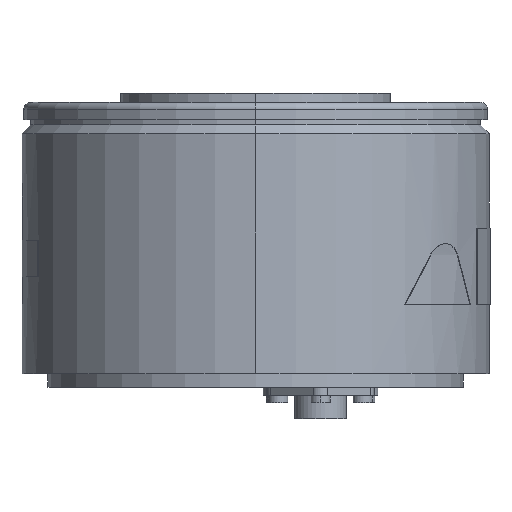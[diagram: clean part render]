
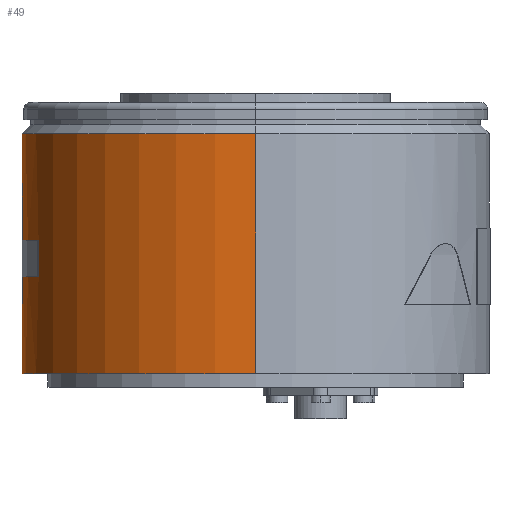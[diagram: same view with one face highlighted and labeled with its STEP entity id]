
A CAD part, left-side view. The second image highlights one B-rep face of the part: STEP entity #49.
In plain terms, the highlighted cylindrical face has radius 67.5 mm (diameter 135 mm), a partial arc.
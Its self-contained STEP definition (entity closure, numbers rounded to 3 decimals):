
#26 = ORIENTED_EDGE ( 'NONE', *, *, #27, .T. ) ;
#27 = EDGE_CURVE ( 'NONE', #54, #55, #2304, .T. ) ;
#28 = ORIENTED_EDGE ( 'NONE', *, *, #29, .T. ) ;
#29 = EDGE_CURVE ( 'NONE', #55, #30, #2299, .T. ) ;
#30 = VERTEX_POINT ( 'NONE', #2295 ) ;
#31 = ORIENTED_EDGE ( 'NONE', *, *, #32, .T. ) ;
#32 = EDGE_CURVE ( 'NONE', #30, #53, #2293, .T. ) ;
#33 = EDGE_LOOP ( 'NONE', ( #34, #35, #38, #101 ) ) ;
#34 = ORIENTED_EDGE ( 'NONE', *, *, #9161, .T. ) ;
#35 = ORIENTED_EDGE ( 'NONE', *, *, #36, .T. ) ;
#36 = EDGE_CURVE ( 'NONE', #9159, #37, #2288, .T. ) ;
#37 = VERTEX_POINT ( 'NONE', #2349 ) ;
#38 = ORIENTED_EDGE ( 'NONE', *, *, #39, .F. ) ;
#39 = EDGE_CURVE ( 'NONE', #100, #37, #2348, .T. ) ;
#49 = ADVANCED_FACE ( 'NONE', ( #2327, #2326 ), #2325, .T. ) ;
#50 = EDGE_LOOP ( 'NONE', ( #51, #26, #28, #31 ) ) ;
#51 = ORIENTED_EDGE ( 'NONE', *, *, #52, .T. ) ;
#52 = EDGE_CURVE ( 'NONE', #53, #54, #2324, .T. ) ;
#53 = VERTEX_POINT ( 'NONE', #2379 ) ;
#54 = VERTEX_POINT ( 'NONE', #2378 ) ;
#55 = VERTEX_POINT ( 'NONE', #2377 ) ;
#100 = VERTEX_POINT ( 'NONE', #2422 ) ;
#101 = ORIENTED_EDGE ( 'NONE', *, *, #102, .F. ) ;
#102 = EDGE_CURVE ( 'NONE', #9162, #100, #2421, .T. ) ;
#2288 = LINE ( 'NONE', #2294, #2351 ) ;
#2289 = DIRECTION ( 'NONE',  ( 1., 0., 0. ) ) ;
#2290 = DIRECTION ( 'NONE',  ( 0., 0., -1. ) ) ;
#2291 = CARTESIAN_POINT ( 'NONE',  ( 0., 0., 32. ) ) ;
#2292 = AXIS2_PLACEMENT_3D ( 'NONE', #2291, #2290, #2289 ) ;
#2293 = CIRCLE ( 'NONE', #2292, 67.5 ) ;
#2294 = CARTESIAN_POINT ( 'NONE',  ( 67.5, 0., -59.236 ) ) ;
#2295 = CARTESIAN_POINT ( 'NONE',  ( -25., 62.7, 32. ) ) ;
#2296 = DIRECTION ( 'NONE',  ( 0., 0., -1. ) ) ;
#2297 = VECTOR ( 'NONE', #2296, 1000. ) ;
#2298 = CARTESIAN_POINT ( 'NONE',  ( -25., 62.7, -59.236 ) ) ;
#2299 = LINE ( 'NONE', #2298, #2297 ) ;
#2300 = DIRECTION ( 'NONE',  ( -1., 0., 0. ) ) ;
#2301 = DIRECTION ( 'NONE',  ( 0., 0., 1. ) ) ;
#2302 = CARTESIAN_POINT ( 'NONE',  ( 0., 0., 42.5 ) ) ;
#2303 = AXIS2_PLACEMENT_3D ( 'NONE', #2302, #2301, #2300 ) ;
#2304 = CIRCLE ( 'NONE', #2303, 67.5 ) ;
#2319 = DIRECTION ( 'NONE',  ( -1., 0., 0. ) ) ;
#2320 = DIRECTION ( 'NONE',  ( 0., 0., -1. ) ) ;
#2321 = CARTESIAN_POINT ( 'NONE',  ( 0., 0., -59.236 ) ) ;
#2322 = AXIS2_PLACEMENT_3D ( 'NONE', #2321, #2320, #2319 ) ;
#2323 = CARTESIAN_POINT ( 'NONE',  ( 25., 62.7, -59.236 ) ) ;
#2324 = LINE ( 'NONE', #2323, #2381 ) ;
#2325 = CYLINDRICAL_SURFACE ( 'NONE', #2322, 67.5 ) ;
#2326 = FACE_OUTER_BOUND ( 'NONE', #33, .T. ) ;
#2327 = FACE_BOUND ( 'NONE', #50, .T. ) ;
#2344 = DIRECTION ( 'NONE',  ( -1., 0., 0. ) ) ;
#2345 = DIRECTION ( 'NONE',  ( 0., 0., -1. ) ) ;
#2346 = CARTESIAN_POINT ( 'NONE',  ( 0., 0., 4. ) ) ;
#2347 = AXIS2_PLACEMENT_3D ( 'NONE', #2346, #2345, #2344 ) ;
#2348 = CIRCLE ( 'NONE', #2347, 67.5 ) ;
#2349 = CARTESIAN_POINT ( 'NONE',  ( 67.5, 0., 4. ) ) ;
#2350 = DIRECTION ( 'NONE',  ( 0., 0., -1. ) ) ;
#2351 = VECTOR ( 'NONE', #2350, 1000. ) ;
#2377 = CARTESIAN_POINT ( 'NONE',  ( -25., 62.7, 42.5 ) ) ;
#2378 = CARTESIAN_POINT ( 'NONE',  ( 25., 62.7, 42.5 ) ) ;
#2379 = CARTESIAN_POINT ( 'NONE',  ( 25., 62.7, 32. ) ) ;
#2380 = DIRECTION ( 'NONE',  ( 0., 0., 1. ) ) ;
#2381 = VECTOR ( 'NONE', #2380, 1000. ) ;
#2418 = DIRECTION ( 'NONE',  ( 0., 0., -1. ) ) ;
#2419 = VECTOR ( 'NONE', #2418, 1000. ) ;
#2420 = CARTESIAN_POINT ( 'NONE',  ( -67.5, 0., -59.236 ) ) ;
#2421 = LINE ( 'NONE', #2420, #2419 ) ;
#2422 = CARTESIAN_POINT ( 'NONE',  ( -67.5, 0., 4. ) ) ;
#8130 = CARTESIAN_POINT ( 'NONE',  ( -67.5, 0., 73.3 ) ) ;
#8131 = DIRECTION ( 'NONE',  ( -1., 0., 0. ) ) ;
#8132 = DIRECTION ( 'NONE',  ( 0., 0., -1. ) ) ;
#8133 = CARTESIAN_POINT ( 'NONE',  ( 0., 0., 73.3 ) ) ;
#8134 = AXIS2_PLACEMENT_3D ( 'NONE', #8133, #8132, #8131 ) ;
#8135 = CIRCLE ( 'NONE', #8134, 67.5 ) ;
#8136 = CARTESIAN_POINT ( 'NONE',  ( 67.5, 0., 73.3 ) ) ;
#9159 = VERTEX_POINT ( 'NONE', #8136 ) ;
#9161 = EDGE_CURVE ( 'NONE', #9162, #9159, #8135, .T. ) ;
#9162 = VERTEX_POINT ( 'NONE', #8130 ) ;
